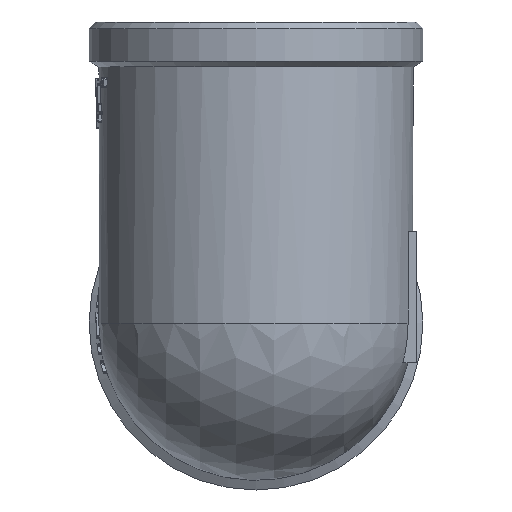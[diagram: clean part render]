
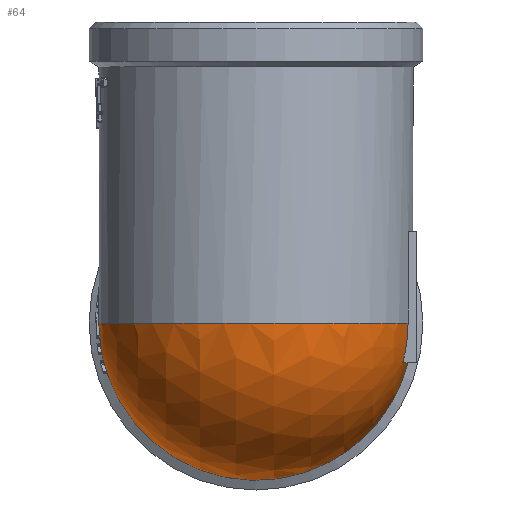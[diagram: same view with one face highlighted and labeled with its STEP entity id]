
A CAD part, front view. The second image highlights one B-rep face of the part: STEP entity #64.
In plain terms, the highlighted spherical face has radius 24 mm.
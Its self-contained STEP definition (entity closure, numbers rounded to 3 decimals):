
#64=ADVANCED_FACE('',(#749),#751,.T.);
#749=FACE_BOUND('',#750,.T.);
#750=EDGE_LOOP('',(#2392,#2393,#2394,#2395));
#751=SPHERICAL_SURFACE('',#752,24.);
#752=AXIS2_PLACEMENT_3D('',#753,#754,#755);
#753=CARTESIAN_POINT('',(0.,0.,0.));
#754=DIRECTION('',(-1.,0.,0.));
#755=DIRECTION('',(0.,0.,-1.));
#2392=ORIENTED_EDGE('',*,*,#3918,.F.);
#2393=ORIENTED_EDGE('',*,*,#3913,.F.);
#2394=ORIENTED_EDGE('',*,*,#3925,.F.);
#2395=ORIENTED_EDGE('',*,*,#4023,.F.);
#3913=EDGE_CURVE('',#4592,#4593,#4594,.T.);
#3918=EDGE_CURVE('',#4593,#4597,#4601,.F.);
#3925=EDGE_CURVE('',#4607,#4592,#4612,.T.);
#4023=EDGE_CURVE('',#4597,#4607,#4807,.F.);
#4592=VERTEX_POINT('',#5777);
#4593=VERTEX_POINT('',#5778);
#4594=CIRCLE('',#5779,23.23);
#4597=VERTEX_POINT('',#5789);
#4601=CIRCLE('',#5797,23.23);
#4607=VERTEX_POINT('',#5838);
#4612=CIRCLE('',#5899,24.);
#4807=CIRCLE('',#6827,24.);
#5777=CARTESIAN_POINT('',(23.23,-6.029,0.));
#5778=CARTESIAN_POINT('',(22.434,-6.029,-6.029));
#5779=AXIS2_PLACEMENT_3D('',#5780,#5781,#5782);
#5780=CARTESIAN_POINT('',(0.,-6.029,0.));
#5781=DIRECTION('',(0.,1.,0.));
#5782=DIRECTION('',(1.,0.,0.));
#5789=CARTESIAN_POINT('',(23.23,0.,-6.029));
#5797=AXIS2_PLACEMENT_3D('',#5798,#5799,#5800);
#5798=CARTESIAN_POINT('',(0.,0.,-6.029));
#5799=DIRECTION('',(0.,0.,-1.));
#5800=DIRECTION('',(1.,0.,0.));
#5838=CARTESIAN_POINT('',(-24.,0.,0.));
#5899=AXIS2_PLACEMENT_3D('',#5900,#5901,#5902);
#5900=CARTESIAN_POINT('',(0.,0.,0.));
#5901=DIRECTION('',(0.,0.,1.));
#5902=DIRECTION('',(-1.,0.,0.));
#6827=AXIS2_PLACEMENT_3D('',#6828,#6829,#6830);
#6828=CARTESIAN_POINT('',(0.,0.,0.));
#6829=DIRECTION('',(0.,-1.,0.));
#6830=DIRECTION('',(-1.,0.,0.));
